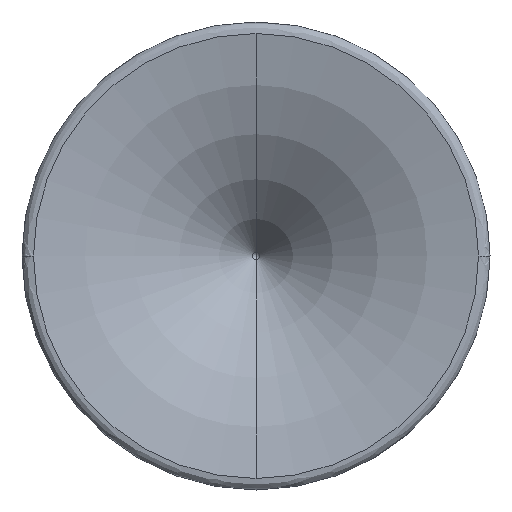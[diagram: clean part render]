
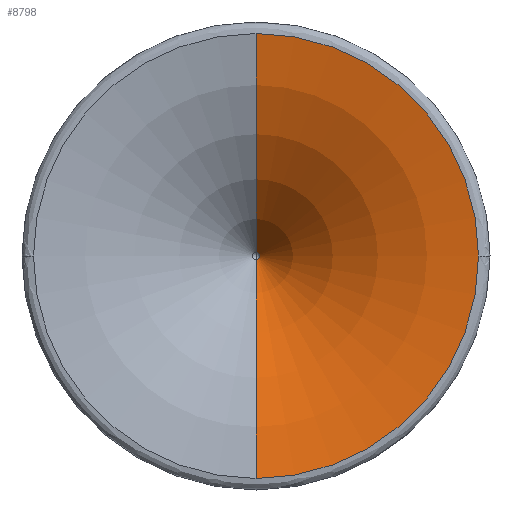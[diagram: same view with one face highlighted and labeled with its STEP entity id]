
A CAD part, front view. The second image highlights one B-rep face of the part: STEP entity #8798.
In plain terms, the highlighted toroidal (fillet/blend) face has major radius 293.235 mm and minor radius 349.996 mm.
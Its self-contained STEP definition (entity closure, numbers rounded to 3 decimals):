
#162 = TOROIDAL_SURFACE ( 'NONE', #6288, 293.235, 349.996 ) ;
#230 = ORIENTED_EDGE ( 'NONE', *, *, #6902, .F. ) ;
#312 = ORIENTED_EDGE ( 'NONE', *, *, #9115, .F. ) ;
#333 = VERTEX_POINT ( 'NONE', #2322 ) ;
#416 = EDGE_CURVE ( 'NONE', #5958, #333, #7432, .T. ) ;
#923 = CARTESIAN_POINT ( 'NONE',  ( 0., 89.089, 293.235 ) ) ;
#1291 = FACE_OUTER_BOUND ( 'NONE', #4037, .T. ) ;
#1357 = CARTESIAN_POINT ( 'NONE',  ( 0., -108.182, -4.13 ) ) ;
#1471 = AXIS2_PLACEMENT_3D ( 'NONE', #3699, #1616, #2311 ) ;
#1616 = DIRECTION ( 'NONE',  ( 1., 0., 0. ) ) ;
#1712 = DIRECTION ( 'NONE',  ( 0., 1., 0. ) ) ;
#1935 = DIRECTION ( 'NONE',  ( 0., 1., 0. ) ) ;
#1970 = CARTESIAN_POINT ( 'NONE',  ( 0., -108.182, 0. ) ) ;
#2116 = ORIENTED_EDGE ( 'NONE', *, *, #3288, .T. ) ;
#2311 = DIRECTION ( 'NONE',  ( 0., 0., -1. ) ) ;
#2322 = CARTESIAN_POINT ( 'NONE',  ( 0., -259., -256.749 ) ) ;
#2426 = CIRCLE ( 'NONE', #5465, 256.749 ) ;
#2691 = CARTESIAN_POINT ( 'NONE',  ( 0., -259., 256.749 ) ) ;
#3288 = EDGE_CURVE ( 'NONE', #8547, #5958, #8761, .T. ) ;
#3593 = EDGE_CURVE ( 'NONE', #8547, #7117, #7276, .T. ) ;
#3699 = CARTESIAN_POINT ( 'NONE',  ( 0., 89.089, -293.235 ) ) ;
#3816 = DIRECTION ( 'NONE',  ( 0., 1., 0. ) ) ;
#3894 = CARTESIAN_POINT ( 'NONE',  ( 0., -259., 0. ) ) ;
#3953 = AXIS2_PLACEMENT_3D ( 'NONE', #923, #8099, #5985 ) ;
#4037 = EDGE_LOOP ( 'NONE', ( #2116, #4491, #312, #230, #5625 ) ) ;
#4366 = DIRECTION ( 'NONE',  ( 0., 1., 0. ) ) ;
#4491 = ORIENTED_EDGE ( 'NONE', *, *, #416, .T. ) ;
#4678 = DIRECTION ( 'NONE',  ( 0., 0., 1. ) ) ;
#4823 = CARTESIAN_POINT ( 'NONE',  ( 0., -108.182, 4.13 ) ) ;
#5243 = DIRECTION ( 'NONE',  ( 0., 0., 1. ) ) ;
#5465 = AXIS2_PLACEMENT_3D ( 'NONE', #6019, #3816, #5243 ) ;
#5625 = ORIENTED_EDGE ( 'NONE', *, *, #3593, .F. ) ;
#5825 = CARTESIAN_POINT ( 'NONE',  ( 0., 89.089, 0. ) ) ;
#5898 = DIRECTION ( 'NONE',  ( 0., 0., 1. ) ) ;
#5958 = VERTEX_POINT ( 'NONE', #1357 ) ;
#5985 = DIRECTION ( 'NONE',  ( 0., 0., 1. ) ) ;
#6019 = CARTESIAN_POINT ( 'NONE',  ( 0., -259., 0. ) ) ;
#6112 = CARTESIAN_POINT ( 'NONE',  ( 256.749, -259., 0. ) ) ;
#6288 = AXIS2_PLACEMENT_3D ( 'NONE', #5825, #4366, #5898 ) ;
#6867 = CIRCLE ( 'NONE', #8313, 256.749 ) ;
#6902 = EDGE_CURVE ( 'NONE', #7117, #6987, #2426, .T. ) ;
#6987 = VERTEX_POINT ( 'NONE', #6112 ) ;
#7117 = VERTEX_POINT ( 'NONE', #2691 ) ;
#7276 = CIRCLE ( 'NONE', #3953, 349.996 ) ;
#7432 = CIRCLE ( 'NONE', #1471, 349.996 ) ;
#8099 = DIRECTION ( 'NONE',  ( -1., 0., 0. ) ) ;
#8187 = AXIS2_PLACEMENT_3D ( 'NONE', #1970, #1935, #9311 ) ;
#8313 = AXIS2_PLACEMENT_3D ( 'NONE', #3894, #1712, #4678 ) ;
#8547 = VERTEX_POINT ( 'NONE', #4823 ) ;
#8761 = CIRCLE ( 'NONE', #8187, 4.13 ) ;
#8798 = ADVANCED_FACE ( 'NONE', ( #1291 ), #162, .T. ) ;
#9115 = EDGE_CURVE ( 'NONE', #6987, #333, #6867, .T. ) ;
#9311 = DIRECTION ( 'NONE',  ( 0., 0., 1. ) ) ;
